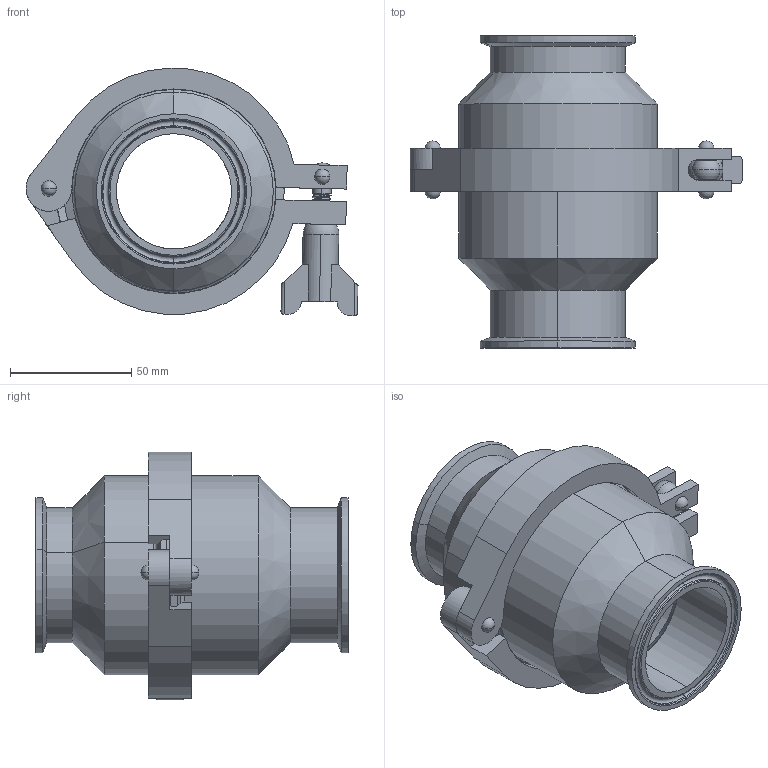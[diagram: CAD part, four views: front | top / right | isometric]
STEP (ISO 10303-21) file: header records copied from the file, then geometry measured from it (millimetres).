
FILE_DESCRIPTION (( 'STEP AP203' ), '1' );
FILE_NAME ('45C-6 2.0.STEP', '2019-11-14T20:38:53', ( 'vneprd' ), ( 'Microsoft' ), 'SwSTEP 2.0', 'SolidWorks 2018', '' );
FILE_SCHEMA (( 'CONFIG_CONTROL_DESIGN' ));
Length unit declared in the file: inch
Products named in the file (1): 45C-6 2.0
Bounding box: 136.79 x 128.57 x 102.07 mm (x, y, z)
Volume: 182946.9 mm3; surface area: 103323.4 mm2
Topology: 9 solids, 9 shells, 284 faces, 683 edges, 426 vertices
Faces by surface type: cylinder 127, plane 59, cone 41, torus 40, sphere 14, bspline 3
Entity records: 12658 total; most frequent: CARTESIAN_POINT 6104, DIRECTION 1402, ORIENTED_EDGE 1362, EDGE_CURVE 681, AXIS2_PLACEMENT_3D 573, VERTEX_POINT 426, EDGE_LOOP 313, CIRCLE 291
